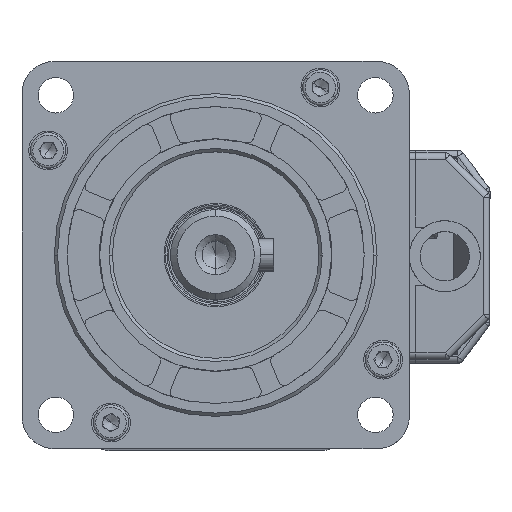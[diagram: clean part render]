
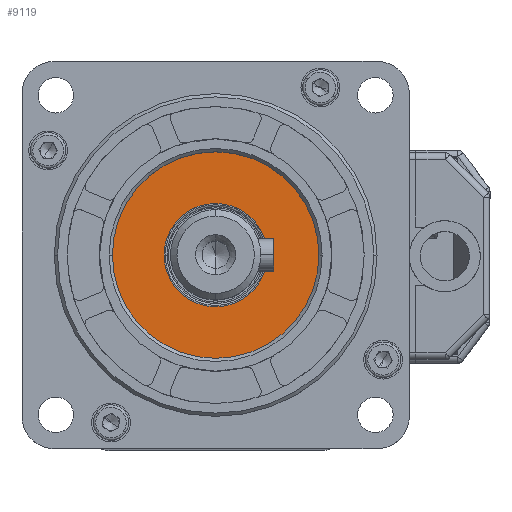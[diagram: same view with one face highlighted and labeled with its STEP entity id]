
A CAD part, top view. The second image highlights one B-rep face of the part: STEP entity #9119.
In plain terms, the highlighted planar face has unit normal (0, 0, 1).
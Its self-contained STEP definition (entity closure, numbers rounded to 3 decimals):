
#2706 = AXIS2_PLACEMENT_3D ( 'NONE', #35921, #23432, #51903 ) ;
#3391 = CARTESIAN_POINT ( 'NONE',  ( 0., 0., 3.5 ) ) ;
#6459 = ORIENTED_EDGE ( 'NONE', *, *, #20543, .T. ) ;
#6561 = ORIENTED_EDGE ( 'NONE', *, *, #15166, .F. ) ;
#8778 = CARTESIAN_POINT ( 'NONE',  ( -8., 0., 3.5 ) ) ;
#9119 = ADVANCED_FACE ( 'NONE', ( #47595, #41188 ), #26835, .T. ) ;
#12143 = VERTEX_POINT ( 'NONE', #8778 ) ;
#15124 = CARTESIAN_POINT ( 'NONE',  ( 0., 0., 3.5 ) ) ;
#15166 = EDGE_CURVE ( 'NONE', #12143, #17929, #38791, .T. ) ;
#15737 = DIRECTION ( 'NONE',  ( 0., 0., 1. ) ) ;
#16600 = DIRECTION ( 'NONE',  ( 1., 0., 0. ) ) ;
#17420 = CIRCLE ( 'NONE', #22003, 16. ) ;
#17929 = VERTEX_POINT ( 'NONE', #43828 ) ;
#18318 = EDGE_LOOP ( 'NONE', ( #6459, #20265 ) ) ;
#18398 = ORIENTED_EDGE ( 'NONE', *, *, #52563, .F. ) ;
#20265 = ORIENTED_EDGE ( 'NONE', *, *, #46931, .T. ) ;
#20543 = EDGE_CURVE ( 'NONE', #34753, #38253, #25459, .T. ) ;
#21043 = CARTESIAN_POINT ( 'NONE',  ( 0., 0., 3.5 ) ) ;
#22003 = AXIS2_PLACEMENT_3D ( 'NONE', #21043, #37512, #16600 ) ;
#23432 = DIRECTION ( 'NONE',  ( 0., 0., 1. ) ) ;
#23898 = AXIS2_PLACEMENT_3D ( 'NONE', #3391, #15737, #43798 ) ;
#25107 = CARTESIAN_POINT ( 'NONE',  ( 16., 0., 3.5 ) ) ;
#25459 = CIRCLE ( 'NONE', #48007, 16. ) ;
#26835 = PLANE ( 'NONE',  #2706 ) ;
#26997 = CARTESIAN_POINT ( 'NONE',  ( 0., 0., 3.5 ) ) ;
#34753 = VERTEX_POINT ( 'NONE', #41646 ) ;
#35392 = DIRECTION ( 'NONE',  ( 1., 0., 0. ) ) ;
#35921 = CARTESIAN_POINT ( 'NONE',  ( 0., 0., 3.5 ) ) ;
#37512 = DIRECTION ( 'NONE',  ( 0., 0., 1. ) ) ;
#38253 = VERTEX_POINT ( 'NONE', #25107 ) ;
#38791 = CIRCLE ( 'NONE', #38901, 8. ) ;
#38901 = AXIS2_PLACEMENT_3D ( 'NONE', #15124, #51829, #40148 ) ;
#39164 = DIRECTION ( 'NONE',  ( 0., 0., 1. ) ) ;
#40148 = DIRECTION ( 'NONE',  ( 1., 0., 0. ) ) ;
#41188 = FACE_BOUND ( 'NONE', #46779, .T. ) ;
#41646 = CARTESIAN_POINT ( 'NONE',  ( -16., 0., 3.5 ) ) ;
#43798 = DIRECTION ( 'NONE',  ( 1., 0., 0. ) ) ;
#43828 = CARTESIAN_POINT ( 'NONE',  ( 8., 0., 3.5 ) ) ;
#46779 = EDGE_LOOP ( 'NONE', ( #6561, #18398 ) ) ;
#46931 = EDGE_CURVE ( 'NONE', #38253, #34753, #17420, .T. ) ;
#47595 = FACE_OUTER_BOUND ( 'NONE', #18318, .T. ) ;
#48007 = AXIS2_PLACEMENT_3D ( 'NONE', #26997, #39164, #35392 ) ;
#51829 = DIRECTION ( 'NONE',  ( 0., 0., 1. ) ) ;
#51903 = DIRECTION ( 'NONE',  ( 1., 0., 0. ) ) ;
#52563 = EDGE_CURVE ( 'NONE', #17929, #12143, #52661, .T. ) ;
#52661 = CIRCLE ( 'NONE', #23898, 8. ) ;
